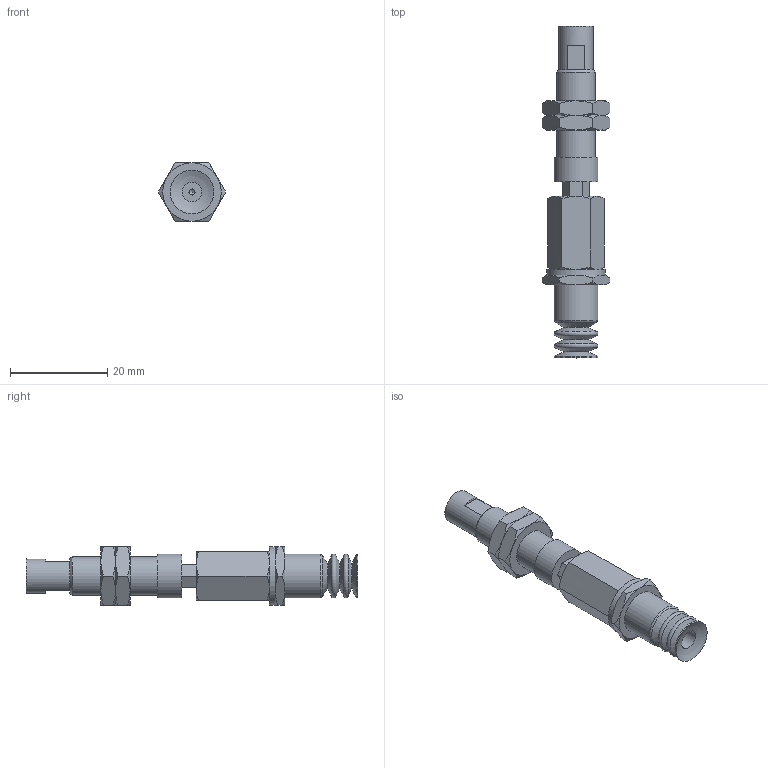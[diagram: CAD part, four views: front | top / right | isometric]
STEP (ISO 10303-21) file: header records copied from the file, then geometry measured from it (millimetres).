
FILE_DESCRIPTION(('STEP AP203'),'1');
FILE_NAME('.stp','2025-08-27T01:34:58',(' '),(' '),'Spatial InterOp 3D',' ',' ');
FILE_SCHEMA(('CONFIG_CONTROL_DESIGN'));
Length unit declared in the file: millimetre
Products named in the file (7): BNABPCTH-10-3-※; ADAPTER; NAPCTH-10-3-MBODY; Adapter_napc-10-T; Nut napc_h-10-3; NAPCTH-10-3-FBODY; BPCG-10-※
Assembly tree (7 placements, depth 2):
  BNABPCTH-10-3-※
    ADAPTER
    NAPCTH-10-3-MBODY
    Adapter_napc-10-T
    Nut napc_h-10-3  x2
    NAPCTH-10-3-FBODY
    BPCG-10-※
Bounding box: 13.86 x 68.2 x 12 mm (x, y, z)
Volume: 4323.9 mm3; surface area: 4751.1 mm2
Topology: 7 solids, 7 shells, 152 faces, 317 edges, 186 vertices
Faces by surface type: cone 64, plane 61, cylinder 17, torus 8, sphere 2
Full cylindrical faces by diameter (mm): 1.25 x1, 4 x1, 4.134 x2, 5 x5, 7 x1, 7.188 x2, 8 x1, 9 x3, 12 x1
Entity records: 3904 total; most frequent: CARTESIAN_POINT 1058, DIRECTION 518, ORIENTED_EDGE 450, AXIS2_PLACEMENT_3D 228, EDGE_CURVE 225, EDGE_LOOP 184, VERTEX_POINT 156, FACE_OUTER_BOUND 155
